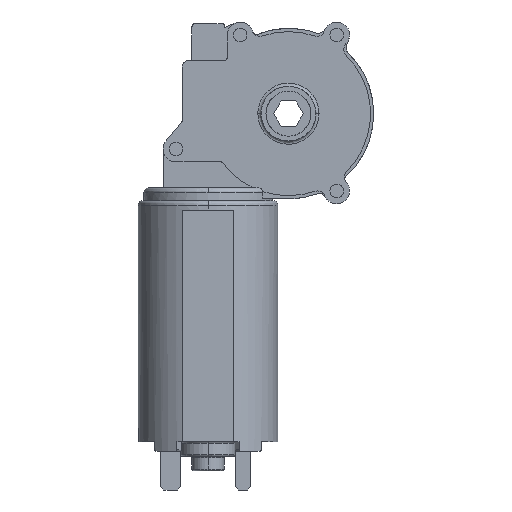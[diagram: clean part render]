
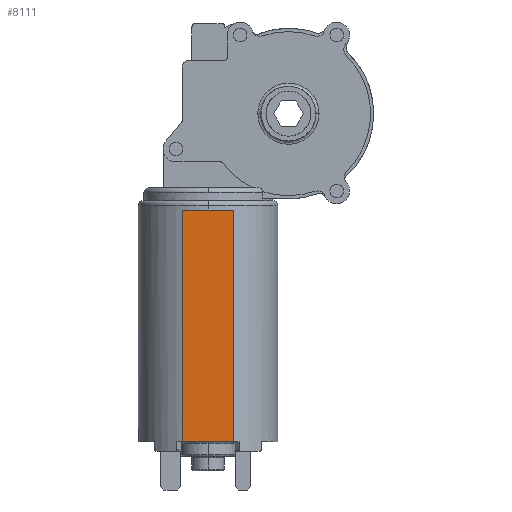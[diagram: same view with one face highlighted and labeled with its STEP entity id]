
A CAD part, left-side view. The second image highlights one B-rep face of the part: STEP entity #8111.
In plain terms, the highlighted planar face has unit normal (-1, 0, 0).
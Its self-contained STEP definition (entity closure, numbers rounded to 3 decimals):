
#1860 = EDGE_CURVE ( 'NONE', #2322, #2781, #4970, .T. ) ;
#1921 = ORIENTED_EDGE ( 'NONE', *, *, #2532, .F. ) ;
#2322 = VERTEX_POINT ( 'NONE', #6853 ) ;
#2440 = VERTEX_POINT ( 'NONE', #3179 ) ;
#2532 = EDGE_CURVE ( 'NONE', #2781, #2440, #3537, .T. ) ;
#2534 = EDGE_CURVE ( 'NONE', #3448, #2440, #3604, .T. ) ;
#2605 = VECTOR ( 'NONE', #4090, 1000. ) ;
#2634 = LINE ( 'NONE', #8589, #2605 ) ;
#2781 = VERTEX_POINT ( 'NONE', #7086 ) ;
#2904 = EDGE_CURVE ( 'NONE', #3448, #2322, #2634, .T. ) ;
#3179 = CARTESIAN_POINT ( 'NONE',  ( -20.2, -32.928, -102. ) ) ;
#3379 = ORIENTED_EDGE ( 'NONE', *, *, #1860, .F. ) ;
#3448 = VERTEX_POINT ( 'NONE', #8681 ) ;
#3474 = VECTOR ( 'NONE', #9416, 1000. ) ;
#3492 = VECTOR ( 'NONE', #9476, 1000. ) ;
#3537 = LINE ( 'NONE', #9533, #3492 ) ;
#3604 = LINE ( 'NONE', #9496, #3474 ) ;
#3681 = DIRECTION ( 'NONE',  ( 0., -1., 0. ) ) ;
#3737 = AXIS2_PLACEMENT_3D ( 'NONE', #8338, #8196, #8185 ) ;
#4090 = DIRECTION ( 'NONE',  ( 0., 0., 1. ) ) ;
#4825 = VECTOR ( 'NONE', #3681, 1000. ) ;
#4970 = LINE ( 'NONE', #8917, #4825 ) ;
#6853 = CARTESIAN_POINT ( 'NONE',  ( -20.2, -17.072, -30. ) ) ;
#7086 = CARTESIAN_POINT ( 'NONE',  ( -20.2, -32.928, -30. ) ) ;
#7239 = ORIENTED_EDGE ( 'NONE', *, *, #2534, .T. ) ;
#7344 = FACE_OUTER_BOUND ( 'NONE', #8091, .T. ) ;
#8091 = EDGE_LOOP ( 'NONE', ( #1921, #3379, #9318, #7239 ) ) ;
#8111 = ADVANCED_FACE ( 'NONE', ( #7344 ), #8210, .F. ) ;
#8185 = DIRECTION ( 'NONE',  ( 0., 0., -1. ) ) ;
#8196 = DIRECTION ( 'NONE',  ( 1., 0., 0. ) ) ;
#8210 = PLANE ( 'NONE',  #3737 ) ;
#8338 = CARTESIAN_POINT ( 'NONE',  ( -20.2, -32.928, -102. ) ) ;
#8589 = CARTESIAN_POINT ( 'NONE',  ( -20.2, -17.072, -102. ) ) ;
#8681 = CARTESIAN_POINT ( 'NONE',  ( -20.2, -17.072, -102. ) ) ;
#8917 = CARTESIAN_POINT ( 'NONE',  ( -20.2, -32.928, -30. ) ) ;
#9318 = ORIENTED_EDGE ( 'NONE', *, *, #2904, .F. ) ;
#9416 = DIRECTION ( 'NONE',  ( 0., -1., 0. ) ) ;
#9476 = DIRECTION ( 'NONE',  ( 0., 0., -1. ) ) ;
#9496 = CARTESIAN_POINT ( 'NONE',  ( -20.2, -25., -102. ) ) ;
#9533 = CARTESIAN_POINT ( 'NONE',  ( -20.2, -32.928, -102. ) ) ;
